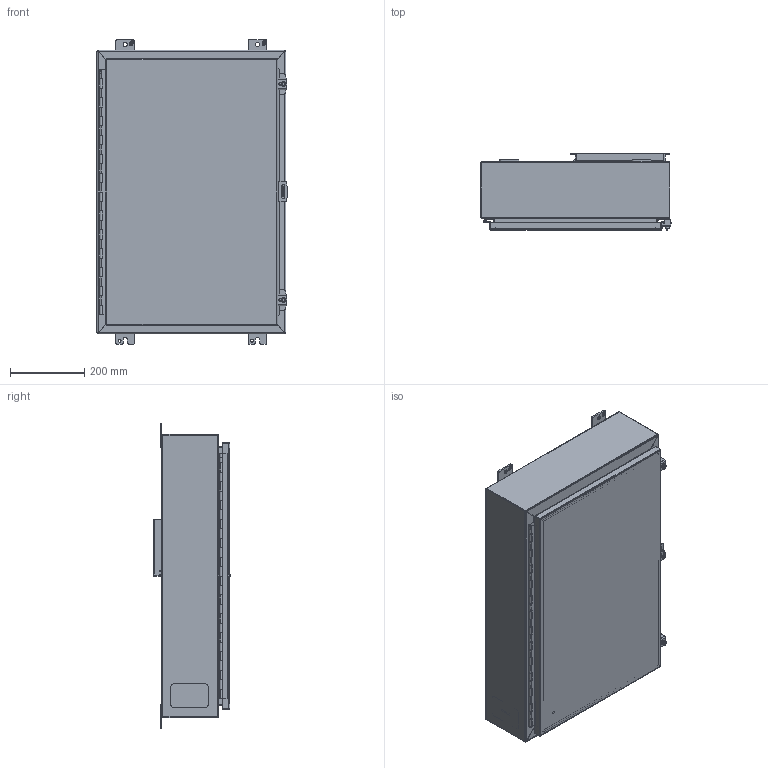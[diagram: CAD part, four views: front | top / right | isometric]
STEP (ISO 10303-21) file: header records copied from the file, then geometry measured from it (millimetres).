
FILE_DESCRIPTION(/* description */ ('Unknown'),/* implementation_level */ '2;1');
FILE_NAME(/* name */ '1418F6LP',/* time_stamp */ '2026-02-20T16:30:59-05:00',/* author */ ('Unknown'),/* organization */ ('Unknown'),/* preprocessor_version */ 'ST-DEVELOPER v18.104',/* originating_system */ 'Solid Edge',/* authorisation */ 'Unknown');
FILE_SCHEMA (('AUTOMOTIVE_DESIGN {1 0 10303 214 3 1 1}'));
Length unit declared in the file: millimetre
Products named in the file (30): 1418F6LP; STD26094; STD21878; COM42780; KIT90256; LAB30005; NTS165305; NTS16535; COM40153-1; KIT90518; WAF25059; NTS166105; COM71780-16; COM40153-2; HNG10620-26C; PNT11078; COM70219_oa_0; COM48432; FET07710; HNG10620-26P; AKT90223; SPR20265; SCC19011; WAF25035; COM42667; BUL10020; QLB30109; PKT99; HNG10620-26B
Assembly tree (40 placements, depth 3):
  1418F6LP
    STD26094  x4
    STD21878
    COM42780  x2
    KIT90256
      LAB30005
      NTS165305
      NTS16535
    COM40153-1
    KIT90518
      WAF25059
      NTS166105
      LAB30005
    COM71780-16
      COM40153-2
      HNG10620-26C
      COM71780-16
      STD21878
      PNT11078
      COM70219_oa_0
    COM48432
    FET07710  x4
    PNT11078
    HNG10620-26P
    AKT90223  x2
      SPR20265
      SCC19011
      WAF25035
      COM42667
    BUL10020
    QLB30109
    PKT99
    HNG10620-26B
Bounding box: 511.18 x 206.38 x 819.15 mm (x, y, z)
Volume: 2761838.9 mm3; surface area: 2960750.6 mm2
Topology: 34 solids, 35 shells, 1217 faces, 3111 edges, 1998 vertices
Faces by surface type: plane 810, cylinder 310, bspline 49, cone 26, torus 20, sphere 2
Full cylindrical faces by diameter (mm): 3.175 x1, 4.763 x1, 4.976 x1, 5.41 x2, 6.198 x2, 6.35 x3, 6.731 x2, 7.137 x2, 7.805 x1, 7.938 x4, 8.382 x4, 9.525 x4, 9.906 x2, 11.113 x4, 11.303 x1, 12.7 x2, 16.51 x4, 25.4 x1, 88.9 x1
Entity records: 30745 total; most frequent: CARTESIAN_POINT 8425, ORIENTED_EDGE 4472, DIRECTION 4227, EDGE_CURVE 2236, LINE 1533, VECTOR 1533, VERTEX_POINT 1441, AXIS2_PLACEMENT_3D 1347
